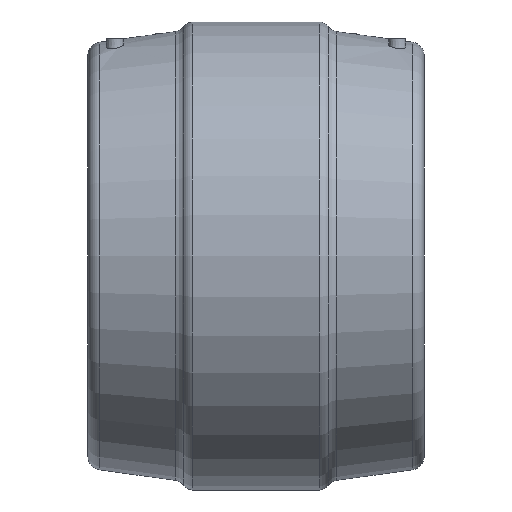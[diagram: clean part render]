
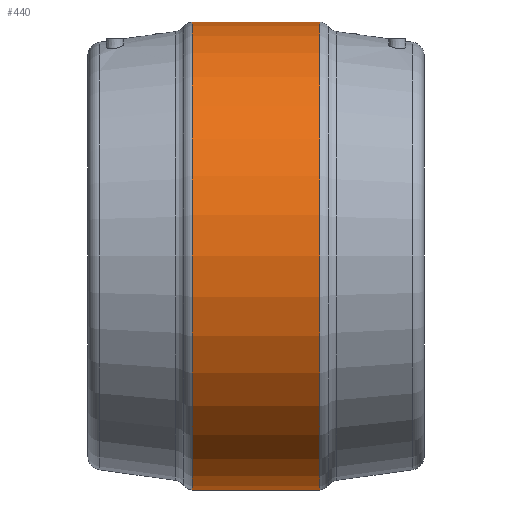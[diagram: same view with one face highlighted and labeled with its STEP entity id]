
A CAD part, front view. The second image highlights one B-rep face of the part: STEP entity #440.
In plain terms, the highlighted cylindrical face has radius 348 mm (diameter 696 mm), a full revolution.
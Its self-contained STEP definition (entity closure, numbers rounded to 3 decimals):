
#31=CYLINDRICAL_SURFACE('',#503,348.);
#67=CIRCLE('',#502,348.);
#68=CIRCLE('',#504,348.);
#114=ORIENTED_EDGE('',*,*,#188,.F.);
#115=ORIENTED_EDGE('',*,*,#187,.T.);
#187=EDGE_CURVE('',#231,#231,#67,.T.);
#188=EDGE_CURVE('',#232,#232,#68,.T.);
#231=VERTEX_POINT('',#847);
#232=VERTEX_POINT('',#850);
#284=EDGE_LOOP('',(#114));
#285=EDGE_LOOP('',(#115));
#368=FACE_BOUND('',#284,.T.);
#369=FACE_BOUND('',#285,.T.);
#440=ADVANCED_FACE('',(#368,#369),#31,.T.);
#502=AXIS2_PLACEMENT_3D('',#846,#595,#596);
#503=AXIS2_PLACEMENT_3D('',#848,#597,#598);
#504=AXIS2_PLACEMENT_3D('',#849,#599,#600);
#595=DIRECTION('',(-1.,0.,0.));
#596=DIRECTION('',(0.,0.,1.));
#597=DIRECTION('',(-1.,0.,0.));
#598=DIRECTION('',(0.,0.,1.));
#599=DIRECTION('',(-1.,0.,0.));
#600=DIRECTION('',(0.,0.,1.));
#846=CARTESIAN_POINT('',(95.,0.,0.));
#847=CARTESIAN_POINT('',(95.,0.,348.));
#848=CARTESIAN_POINT('',(-60.,0.,0.));
#849=CARTESIAN_POINT('',(-95.,0.,0.));
#850=CARTESIAN_POINT('',(-95.,0.,348.));
